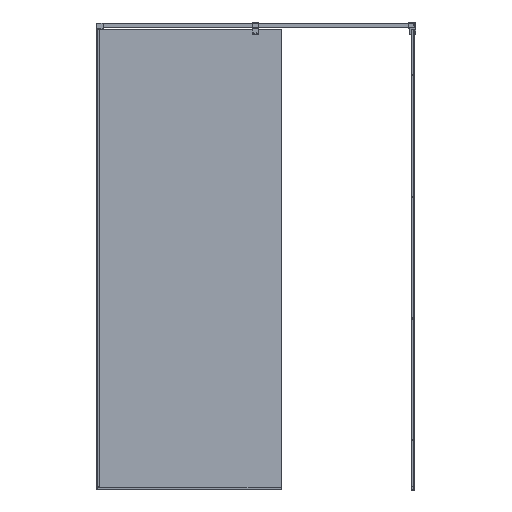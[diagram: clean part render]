
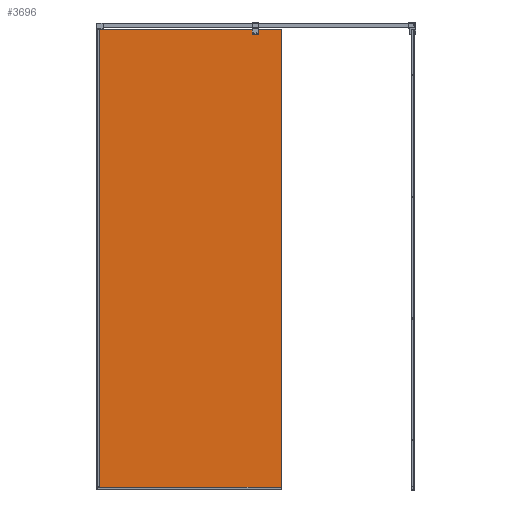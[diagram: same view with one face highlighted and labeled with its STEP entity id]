
A CAD part, left-side view. The second image highlights one B-rep face of the part: STEP entity #3696.
In plain terms, the highlighted planar face has unit normal (-1, 0, 0) as drawn and (0, 1, 0) by its records, which use the part's own axes.
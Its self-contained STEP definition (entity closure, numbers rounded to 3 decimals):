
#342=FACE_OUTER_BOUND($,#544,.T.);
#544=EDGE_LOOP($,(#2590,#2591,#2592,#2593));
#869=LINE($,#5419,#1273);
#872=LINE($,#5424,#1276);
#873=LINE($,#5428,#1277);
#874=LINE($,#5429,#1278);
#1273=VECTOR($,#4341,2000.);
#1276=VECTOR($,#4346,800.);
#1277=VECTOR($,#4351,800.);
#1278=VECTOR($,#4352,2000.);
#1656=VERTEX_POINT($,#5416);
#1657=VERTEX_POINT($,#5418);
#1658=VERTEX_POINT($,#5422);
#1659=VERTEX_POINT($,#5427);
#2026=EDGE_CURVE($,#1656,#1657,#869,.T.);
#2029=EDGE_CURVE($,#1658,#1656,#872,.T.);
#2030=EDGE_CURVE($,#1657,#1659,#873,.T.);
#2031=EDGE_CURVE($,#1659,#1658,#874,.T.);
#2590=ORIENTED_EDGE($,*,*,#2030,.F.);
#2591=ORIENTED_EDGE($,*,*,#2026,.F.);
#2592=ORIENTED_EDGE($,*,*,#2029,.F.);
#2593=ORIENTED_EDGE($,*,*,#2031,.F.);
#3491=PLANE($,#3925);
#3696=ADVANCED_FACE($,(#342),#3491,.F.);
#3925=AXIS2_PLACEMENT_3D($,#5426,#4349,#4350);
#4341=DIRECTION($,(0.,0.,-1.));
#4346=DIRECTION($,(-1.,0.,0.));
#4349=DIRECTION('center_axis',(0.,-1.,0.));
#4350=DIRECTION('ref_axis',(0.,0.,-1.));
#4351=DIRECTION($,(1.,0.,0.));
#4352=DIRECTION($,(0.,0.,1.));
#5416=CARTESIAN_POINT('',(0.,9.9,2000.));
#5418=CARTESIAN_POINT('',(0.,9.9,0.));
#5419=CARTESIAN_POINT($,(0.,9.9,500.));
#5422=CARTESIAN_POINT('',(800.,9.9,2000.));
#5424=CARTESIAN_POINT($,(400.,9.9,2000.));
#5426=CARTESIAN_POINT('Origin',(400.,9.9,1000.));
#5427=CARTESIAN_POINT('',(800.,9.9,0.));
#5428=CARTESIAN_POINT($,(400.,9.9,0.));
#5429=CARTESIAN_POINT($,(800.,9.9,500.));
